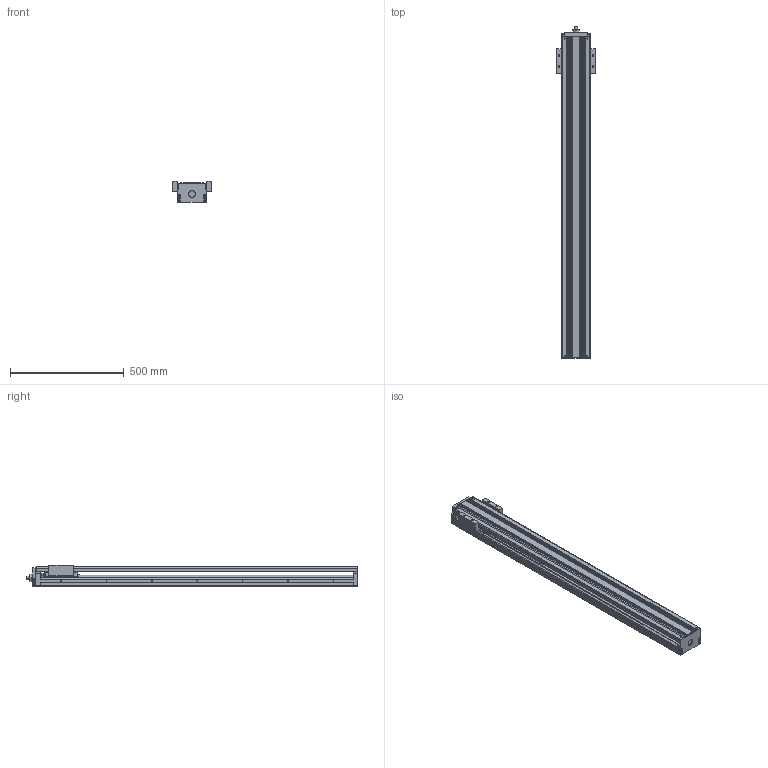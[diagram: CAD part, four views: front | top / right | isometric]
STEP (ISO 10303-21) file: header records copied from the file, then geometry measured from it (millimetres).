
FILE_DESCRIPTION(('no description'),'unknown implementation level');
FILE_NAME('KK13025P1380A1H0C00_FILE_60.stp',' ',('HIWIN GmbH'),('CADClick - KiM GmbH - www.kimweb.de'),'unknown preprocess','ACIS','unknown authorization');
FILE_SCHEMA(('automotive_design'));
Length unit declared in the file: millimetre
Products named in the file (2): KK130_FILE; KK13025P1380A1H0C00_FILE
Bounding box: 170 x 1462 x 94 mm (x, y, z)
Volume: 6534161 mm3; surface area: 1309843.3 mm2
Topology: 2 solids, 17 shells, 944 faces, 2366 edges, 1535 vertices
Faces by surface type: plane 578, cylinder 316, torus 46, cone 2, sphere 2
Entity records: 55502 total; most frequent: DIRECTION 5052, CARTESIAN_POINT 4953, STYLED_ITEM 4845, PRESENTATION_STYLE_ASSIGNMENT 4845, COLOUR_RGB 4845, ORIENTED_EDGE 4728, EDGE_CURVE 2364, CURVE_STYLE 2364
